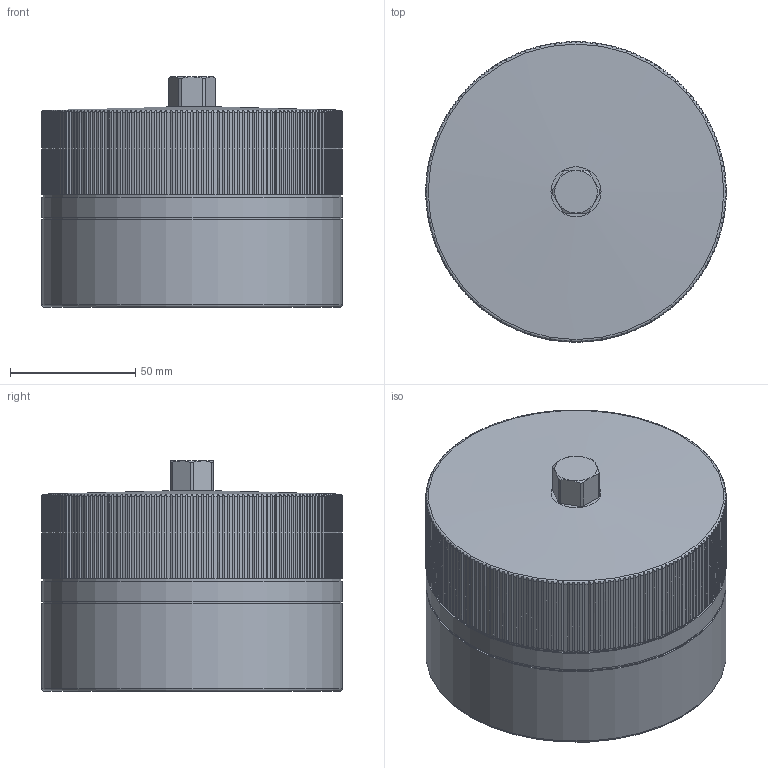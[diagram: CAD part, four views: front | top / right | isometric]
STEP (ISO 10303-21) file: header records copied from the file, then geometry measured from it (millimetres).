
FILE_DESCRIPTION( ( 'Unknown' ), '1' );
FILE_NAME( 'F:/JAKOB-STEP+IGES-Dateien/STEP-Dateien/MCA/MCA 200 - M42.stp', 'Unknown', ( 'Unknown' ), ( 'Unknown' ), 'XStep 1.0', 'Unknown', ' ' );
FILE_SCHEMA( ( 'CONFIG_CONTROL_DESIGN' ) );
Length unit declared in the file: millimetre
Products named in the file (1): 1
Bounding box: 120 x 120 x 92 mm (x, y, z)
Volume: 841578.3 mm3; surface area: 61298.9 mm2
Topology: 1 solids, 1 shells, 397 faces, 1155 edges, 767 vertices
Faces by surface type: cylinder 371, plane 15, cone 9, torus 2
Full cylindrical faces by diameter (mm): 37.5 x1, 119 x2, 120 x2
Entity records: 16116 total; most frequent: CARTESIAN_POINT 5432, DIRECTION 2322, ORIENTED_EDGE 2288, EDGE_CURVE 1144, AXIS2_PLACEMENT_3D 972, VERTEX_POINT 766, CIRCLE 574, EDGE_LOOP 414
